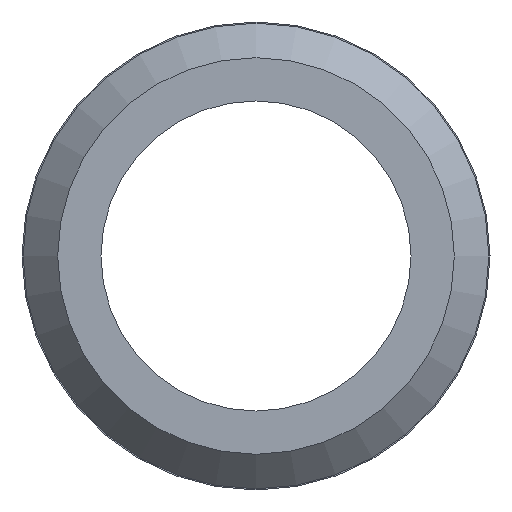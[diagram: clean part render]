
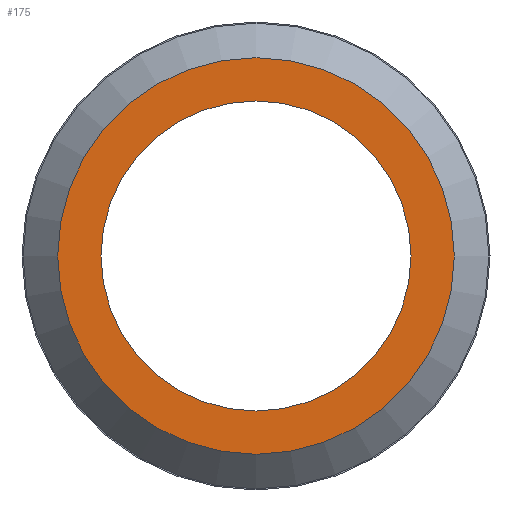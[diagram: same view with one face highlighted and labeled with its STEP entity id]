
A CAD part, front view. The second image highlights one B-rep face of the part: STEP entity #175.
In plain terms, the highlighted planar face has unit normal (0, -1, 0).
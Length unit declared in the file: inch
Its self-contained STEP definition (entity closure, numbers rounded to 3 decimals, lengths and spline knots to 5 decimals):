
#15=FACE_BOUND('',#40,.T.);
#19=PLANE('',#204);
#29=FACE_OUTER_BOUND('',#39,.T.);
#39=EDGE_LOOP('',(#134));
#40=EDGE_LOOP('',(#135,#136));
#63=CIRCLE('',#198,0.172);
#68=CIRCLE('',#205,0.1345);
#69=CIRCLE('',#206,0.1345);
#81=VERTEX_POINT('',#291);
#86=VERTEX_POINT('',#305);
#87=VERTEX_POINT('',#306);
#99=EDGE_CURVE('',#81,#81,#63,.T.);
#106=EDGE_CURVE('',#86,#87,#68,.T.);
#107=EDGE_CURVE('',#87,#86,#69,.T.);
#134=ORIENTED_EDGE('',*,*,#99,.F.);
#135=ORIENTED_EDGE('',*,*,#106,.F.);
#136=ORIENTED_EDGE('',*,*,#107,.F.);
#175=ADVANCED_FACE('',(#29,#15),#19,.T.);
#198=AXIS2_PLACEMENT_3D('',#292,#229,#230);
#204=AXIS2_PLACEMENT_3D('',#304,#243,#244);
#205=AXIS2_PLACEMENT_3D('',#307,#245,#246);
#206=AXIS2_PLACEMENT_3D('',#308,#247,#248);
#229=DIRECTION('center_axis',(0.,1.,0.));
#230=DIRECTION('ref_axis',(0.,0.,1.));
#243=DIRECTION('center_axis',(0.,-1.,0.));
#244=DIRECTION('ref_axis',(0.,0.,-1.));
#245=DIRECTION('center_axis',(0.,-1.,0.));
#246=DIRECTION('ref_axis',(1.,0.,0.));
#247=DIRECTION('center_axis',(0.,-1.,0.));
#248=DIRECTION('ref_axis',(1.,0.,0.));
#291=CARTESIAN_POINT('',(0.,0.,-0.172));
#292=CARTESIAN_POINT('Origin',(0.,0.,0.));
#304=CARTESIAN_POINT('Origin',(0.,0.,-0.1345));
#305=CARTESIAN_POINT('',(0.,0.,-0.1345));
#306=CARTESIAN_POINT('',(0.,0.,0.1345));
#307=CARTESIAN_POINT('Origin',(0.,0.,0.));
#308=CARTESIAN_POINT('Origin',(0.,0.,0.));
